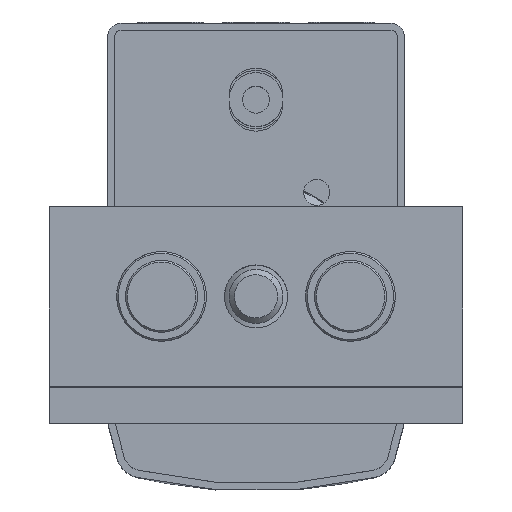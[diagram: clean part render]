
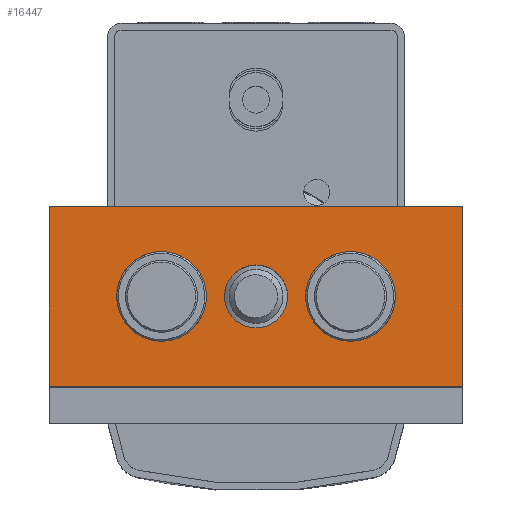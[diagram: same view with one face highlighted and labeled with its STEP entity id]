
A CAD part, top view. The second image highlights one B-rep face of the part: STEP entity #16447.
In plain terms, the highlighted planar face has unit normal (0, 0, 1).
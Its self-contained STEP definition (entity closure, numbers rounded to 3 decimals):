
#35 = EDGE_CURVE ( 'NONE', #11443, #15215, #21000, .T. ) ;
#82 = CARTESIAN_POINT ( 'NONE',  ( 10.5, 4.99, 23. ) ) ;
#467 = EDGE_CURVE ( 'NONE', #14510, #20755, #3568, .T. ) ;
#496 = AXIS2_PLACEMENT_3D ( 'NONE', #15256, #15279, #15283 ) ;
#1156 = DIRECTION ( 'NONE',  ( 0., 1., 0. ) ) ;
#1299 = CARTESIAN_POINT ( 'NONE',  ( -10.5, 0., 23. ) ) ;
#1303 = LINE ( 'NONE', #2977, #19627 ) ;
#1332 = DIRECTION ( 'NONE',  ( 0., 0., 1. ) ) ;
#1371 = CARTESIAN_POINT ( 'NONE',  ( -10.5, -4.99, 23. ) ) ;
#1530 = CARTESIAN_POINT ( 'NONE',  ( 23., -10., 23. ) ) ;
#1630 = EDGE_CURVE ( 'NONE', #19447, #13306, #16750, .T. ) ;
#1800 = FACE_BOUND ( 'NONE', #7353, .T. ) ;
#1890 = DIRECTION ( 'NONE',  ( 0., 1., 0. ) ) ;
#1914 = EDGE_CURVE ( 'NONE', #19447, #22026, #6725, .T. ) ;
#1915 = DIRECTION ( 'NONE',  ( 0., 0., 1. ) ) ;
#1980 = CARTESIAN_POINT ( 'NONE',  ( 0., 0., 23. ) ) ;
#2031 = ORIENTED_EDGE ( 'NONE', *, *, #467, .F. ) ;
#2083 = ORIENTED_EDGE ( 'NONE', *, *, #11233, .F. ) ;
#2186 = AXIS2_PLACEMENT_3D ( 'NONE', #1980, #1915, #1890 ) ;
#2666 = CARTESIAN_POINT ( 'NONE',  ( 0., 3.5, 23. ) ) ;
#2811 = CIRCLE ( 'NONE', #496, 4.99 ) ;
#2825 = ORIENTED_EDGE ( 'NONE', *, *, #3093, .F. ) ;
#2970 = EDGE_CURVE ( 'NONE', #8658, #11280, #2811, .T. ) ;
#2977 = CARTESIAN_POINT ( 'NONE',  ( 23., -10., 23. ) ) ;
#3015 = EDGE_CURVE ( 'NONE', #15215, #11443, #13123, .T. ) ;
#3067 = ORIENTED_EDGE ( 'NONE', *, *, #3015, .F. ) ;
#3093 = EDGE_CURVE ( 'NONE', #13306, #22269, #19388, .T. ) ;
#3120 = DIRECTION ( 'NONE',  ( 1., 0., 0. ) ) ;
#3568 = CIRCLE ( 'NONE', #21885, 3.5 ) ;
#4143 = CARTESIAN_POINT ( 'NONE',  ( 10.5, -4.99, 23. ) ) ;
#4191 = ORIENTED_EDGE ( 'NONE', *, *, #35, .F. ) ;
#4502 = EDGE_LOOP ( 'NONE', ( #19425, #2825, #13795, #12442 ) ) ;
#4907 = DIRECTION ( 'NONE',  ( 0., 1., 0. ) ) ;
#4924 = DIRECTION ( 'NONE',  ( 0., 0., 1. ) ) ;
#4929 = CARTESIAN_POINT ( 'NONE',  ( 0., 0., 23. ) ) ;
#5390 = EDGE_LOOP ( 'NONE', ( #3067, #4191 ) ) ;
#5698 = AXIS2_PLACEMENT_3D ( 'NONE', #8812, #14097, #10820 ) ;
#6217 = PLANE ( 'NONE',  #5698 ) ;
#6725 = LINE ( 'NONE', #10766, #16859 ) ;
#6871 = EDGE_LOOP ( 'NONE', ( #2031, #2083 ) ) ;
#7353 = EDGE_LOOP ( 'NONE', ( #13271, #16124 ) ) ;
#8234 = EDGE_CURVE ( 'NONE', #11280, #8658, #22759, .T. ) ;
#8658 = VERTEX_POINT ( 'NONE', #14108 ) ;
#8812 = CARTESIAN_POINT ( 'NONE',  ( 23., 10., 23. ) ) ;
#9597 = AXIS2_PLACEMENT_3D ( 'NONE', #16049, #16052, #16103 ) ;
#10743 = DIRECTION ( 'NONE',  ( 0., -1., 0. ) ) ;
#10766 = CARTESIAN_POINT ( 'NONE',  ( -23., 10., 23. ) ) ;
#10820 = DIRECTION ( 'NONE',  ( 0., -1., 0. ) ) ;
#11233 = EDGE_CURVE ( 'NONE', #20755, #14510, #23274, .T. ) ;
#11280 = VERTEX_POINT ( 'NONE', #1371 ) ;
#11443 = VERTEX_POINT ( 'NONE', #4143 ) ;
#12287 = DIRECTION ( 'NONE',  ( 0., 1., 0. ) ) ;
#12315 = DIRECTION ( 'NONE',  ( 0., 0., 1. ) ) ;
#12331 = CARTESIAN_POINT ( 'NONE',  ( 10.5, 0., 23. ) ) ;
#12396 = CARTESIAN_POINT ( 'NONE',  ( 23., 10., 23. ) ) ;
#12442 = ORIENTED_EDGE ( 'NONE', *, *, #1914, .T. ) ;
#12741 = CARTESIAN_POINT ( 'NONE',  ( -23., -10., 23. ) ) ;
#13123 = CIRCLE ( 'NONE', #9597, 4.99 ) ;
#13271 = ORIENTED_EDGE ( 'NONE', *, *, #2970, .F. ) ;
#13306 = VERTEX_POINT ( 'NONE', #12396 ) ;
#13795 = ORIENTED_EDGE ( 'NONE', *, *, #1630, .F. ) ;
#14097 = DIRECTION ( 'NONE',  ( 0., 0., -1. ) ) ;
#14108 = CARTESIAN_POINT ( 'NONE',  ( -10.5, 4.99, 23. ) ) ;
#14510 = VERTEX_POINT ( 'NONE', #2666 ) ;
#15215 = VERTEX_POINT ( 'NONE', #82 ) ;
#15256 = CARTESIAN_POINT ( 'NONE',  ( -10.5, 0., 23. ) ) ;
#15279 = DIRECTION ( 'NONE',  ( 0., 0., 1. ) ) ;
#15283 = DIRECTION ( 'NONE',  ( 0., 1., 0. ) ) ;
#15454 = FACE_OUTER_BOUND ( 'NONE', #4502, .T. ) ;
#15517 = DIRECTION ( 'NONE',  ( 1., 0., 0. ) ) ;
#15570 = CARTESIAN_POINT ( 'NONE',  ( 23., 10., 23. ) ) ;
#16049 = CARTESIAN_POINT ( 'NONE',  ( 10.5, 0., 23. ) ) ;
#16052 = DIRECTION ( 'NONE',  ( 0., 0., 1. ) ) ;
#16067 = AXIS2_PLACEMENT_3D ( 'NONE', #1299, #1332, #1156 ) ;
#16103 = DIRECTION ( 'NONE',  ( 0., 1., 0. ) ) ;
#16124 = ORIENTED_EDGE ( 'NONE', *, *, #8234, .F. ) ;
#16447 = ADVANCED_FACE ( 'NONE', ( #1800, #20061, #21152, #15454 ), #6217, .F. ) ;
#16750 = LINE ( 'NONE', #15570, #21897 ) ;
#16859 = VECTOR ( 'NONE', #10743, 1000. ) ;
#17053 = CARTESIAN_POINT ( 'NONE',  ( 23., 10., 23. ) ) ;
#17153 = DIRECTION ( 'NONE',  ( 0., -1., 0. ) ) ;
#19038 = VECTOR ( 'NONE', #17153, 1000. ) ;
#19386 = AXIS2_PLACEMENT_3D ( 'NONE', #12331, #12315, #12287 ) ;
#19388 = LINE ( 'NONE', #17053, #19038 ) ;
#19425 = ORIENTED_EDGE ( 'NONE', *, *, #22508, .T. ) ;
#19447 = VERTEX_POINT ( 'NONE', #22098 ) ;
#19627 = VECTOR ( 'NONE', #3120, 1000. ) ;
#20061 = FACE_BOUND ( 'NONE', #5390, .T. ) ;
#20755 = VERTEX_POINT ( 'NONE', #22843 ) ;
#21000 = CIRCLE ( 'NONE', #19386, 4.99 ) ;
#21152 = FACE_BOUND ( 'NONE', #6871, .T. ) ;
#21885 = AXIS2_PLACEMENT_3D ( 'NONE', #4929, #4924, #4907 ) ;
#21897 = VECTOR ( 'NONE', #15517, 1000. ) ;
#22026 = VERTEX_POINT ( 'NONE', #12741 ) ;
#22098 = CARTESIAN_POINT ( 'NONE',  ( -23., 10., 23. ) ) ;
#22269 = VERTEX_POINT ( 'NONE', #1530 ) ;
#22508 = EDGE_CURVE ( 'NONE', #22026, #22269, #1303, .T. ) ;
#22759 = CIRCLE ( 'NONE', #16067, 4.99 ) ;
#22843 = CARTESIAN_POINT ( 'NONE',  ( 0., -3.5, 23. ) ) ;
#23274 = CIRCLE ( 'NONE', #2186, 3.5 ) ;
